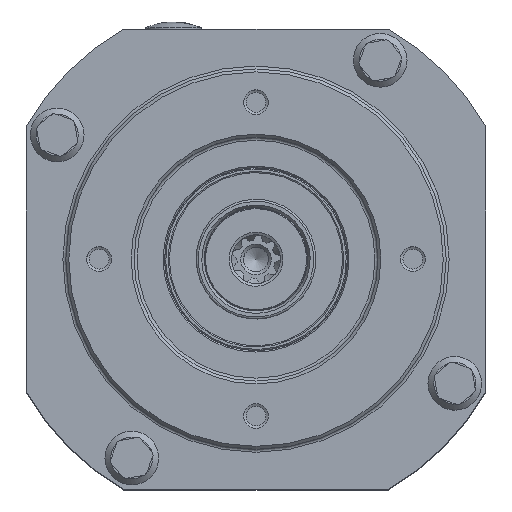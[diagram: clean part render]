
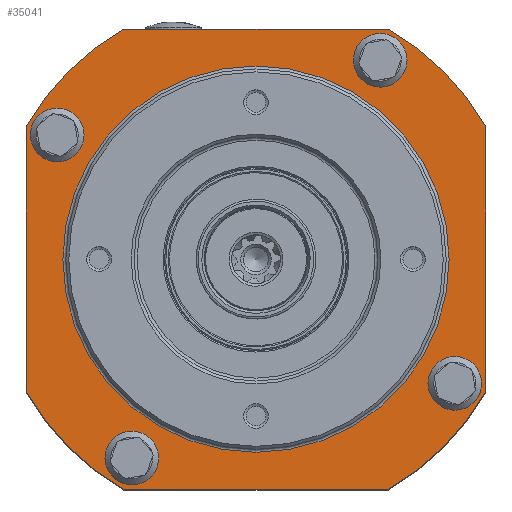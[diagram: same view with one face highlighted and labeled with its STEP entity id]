
A CAD part, top view. The second image highlights one B-rep face of the part: STEP entity #35041.
In plain terms, the highlighted planar face has unit normal (0, 0, 1).
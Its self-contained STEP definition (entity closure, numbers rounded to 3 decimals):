
#709=FACE_BOUND('',#5558,.T.);
#710=FACE_BOUND('',#5559,.T.);
#711=FACE_BOUND('',#5560,.T.);
#712=FACE_BOUND('',#5561,.T.);
#713=FACE_BOUND('',#5562,.T.);
#1488=PLANE('',#38217);
#3498=FACE_OUTER_BOUND('',#5557,.T.);
#5557=EDGE_LOOP('',(#28668,#28669,#28670,#28671,#28672,#28673,#28674,#28675));
#5558=EDGE_LOOP('',(#28676,#28677));
#5559=EDGE_LOOP('',(#28678,#28679));
#5560=EDGE_LOOP('',(#28680,#28681));
#5561=EDGE_LOOP('',(#28682,#28683));
#5562=EDGE_LOOP('',(#28684,#28685));
#6404=CIRCLE('',#35916,9.1);
#6405=CIRCLE('',#35917,9.1);
#6427=CIRCLE('',#35960,9.1);
#6428=CIRCLE('',#35961,9.1);
#7336=CIRCLE('',#38218,90.);
#7337=CIRCLE('',#38219,90.);
#7338=CIRCLE('',#38220,90.);
#7339=CIRCLE('',#38221,90.);
#7340=CIRCLE('',#38222,9.1);
#7341=CIRCLE('',#38223,9.1);
#7342=CIRCLE('',#38224,9.1);
#7343=CIRCLE('',#38225,9.1);
#7344=CIRCLE('',#38226,65.5);
#7345=CIRCLE('',#38227,65.5);
#10014=LINE('',#66281,#12628);
#10018=LINE('',#66298,#12632);
#10022=LINE('',#66315,#12636);
#10033=LINE('',#66404,#12647);
#12628=VECTOR('',#46530,10.);
#12632=VECTOR('',#46544,10.);
#12636=VECTOR('',#46558,10.);
#12647=VECTOR('',#46663,10.);
#13504=VERTEX_POINT('',#50571);
#13505=VERTEX_POINT('',#50572);
#13545=VERTEX_POINT('',#50718);
#13546=VERTEX_POINT('',#50719);
#15482=VERTEX_POINT('',#66274);
#15485=VERTEX_POINT('',#66279);
#15490=VERTEX_POINT('',#66291);
#15493=VERTEX_POINT('',#66296);
#15498=VERTEX_POINT('',#66308);
#15501=VERTEX_POINT('',#66313);
#15531=VERTEX_POINT('',#66398);
#15532=VERTEX_POINT('',#66402);
#15533=VERTEX_POINT('',#66405);
#15534=VERTEX_POINT('',#66406);
#15535=VERTEX_POINT('',#66409);
#15536=VERTEX_POINT('',#66410);
#15537=VERTEX_POINT('',#66413);
#15538=VERTEX_POINT('',#66414);
#16775=EDGE_CURVE('',#13504,#13505,#6404,.T.);
#16776=EDGE_CURVE('',#13505,#13504,#6405,.T.);
#16836=EDGE_CURVE('',#13545,#13546,#6427,.T.);
#16837=EDGE_CURVE('',#13546,#13545,#6428,.T.);
#20008=EDGE_CURVE('',#15482,#15485,#10014,.T.);
#20016=EDGE_CURVE('',#15490,#15493,#10018,.T.);
#20024=EDGE_CURVE('',#15498,#15501,#10022,.T.);
#20065=EDGE_CURVE('',#15531,#15490,#7336,.T.);
#20066=EDGE_CURVE('',#15493,#15498,#7337,.T.);
#20067=EDGE_CURVE('',#15501,#15482,#7338,.T.);
#20068=EDGE_CURVE('',#15485,#15532,#7339,.T.);
#20069=EDGE_CURVE('',#15532,#15531,#10033,.T.);
#20070=EDGE_CURVE('',#15533,#15534,#7340,.T.);
#20071=EDGE_CURVE('',#15534,#15533,#7341,.T.);
#20072=EDGE_CURVE('',#15535,#15536,#7342,.T.);
#20073=EDGE_CURVE('',#15536,#15535,#7343,.T.);
#20074=EDGE_CURVE('',#15537,#15538,#7344,.T.);
#20075=EDGE_CURVE('',#15538,#15537,#7345,.T.);
#28668=ORIENTED_EDGE('',*,*,#20065,.T.);
#28669=ORIENTED_EDGE('',*,*,#20016,.T.);
#28670=ORIENTED_EDGE('',*,*,#20066,.T.);
#28671=ORIENTED_EDGE('',*,*,#20024,.T.);
#28672=ORIENTED_EDGE('',*,*,#20067,.T.);
#28673=ORIENTED_EDGE('',*,*,#20008,.T.);
#28674=ORIENTED_EDGE('',*,*,#20068,.T.);
#28675=ORIENTED_EDGE('',*,*,#20069,.T.);
#28676=ORIENTED_EDGE('',*,*,#16775,.T.);
#28677=ORIENTED_EDGE('',*,*,#16776,.T.);
#28678=ORIENTED_EDGE('',*,*,#20070,.T.);
#28679=ORIENTED_EDGE('',*,*,#20071,.T.);
#28680=ORIENTED_EDGE('',*,*,#16836,.T.);
#28681=ORIENTED_EDGE('',*,*,#16837,.T.);
#28682=ORIENTED_EDGE('',*,*,#20072,.T.);
#28683=ORIENTED_EDGE('',*,*,#20073,.T.);
#28684=ORIENTED_EDGE('',*,*,#20074,.F.);
#28685=ORIENTED_EDGE('',*,*,#20075,.F.);
#35041=ADVANCED_FACE('',(#3498,#709,#710,#711,#712,#713),#1488,.T.);
#35916=AXIS2_PLACEMENT_3D('',#50573,#40148,#40149);
#35917=AXIS2_PLACEMENT_3D('',#50574,#40150,#40151);
#35960=AXIS2_PLACEMENT_3D('',#50720,#40262,#40263);
#35961=AXIS2_PLACEMENT_3D('',#50721,#40264,#40265);
#38217=AXIS2_PLACEMENT_3D('',#66397,#46653,#46654);
#38218=AXIS2_PLACEMENT_3D('',#66399,#46655,#46656);
#38219=AXIS2_PLACEMENT_3D('',#66400,#46657,#46658);
#38220=AXIS2_PLACEMENT_3D('',#66401,#46659,#46660);
#38221=AXIS2_PLACEMENT_3D('',#66403,#46661,#46662);
#38222=AXIS2_PLACEMENT_3D('',#66407,#46664,#46665);
#38223=AXIS2_PLACEMENT_3D('',#66408,#46666,#46667);
#38224=AXIS2_PLACEMENT_3D('',#66411,#46668,#46669);
#38225=AXIS2_PLACEMENT_3D('',#66412,#46670,#46671);
#38226=AXIS2_PLACEMENT_3D('',#66415,#46672,#46673);
#38227=AXIS2_PLACEMENT_3D('',#66416,#46674,#46675);
#40148=DIRECTION('center_axis',(0.,0.,
-1.));
#40149=DIRECTION('ref_axis',(0.339,0.941,0.));
#40150=DIRECTION('center_axis',(0.,0.,
-1.));
#40151=DIRECTION('ref_axis',(0.339,0.941,0.));
#40262=DIRECTION('center_axis',(0.,0.,
-1.));
#40263=DIRECTION('ref_axis',(-0.339,-0.941,0.));
#40264=DIRECTION('center_axis',(0.,0.,
-1.));
#40265=DIRECTION('ref_axis',(-0.339,-0.941,0.));
#46530=DIRECTION('',(-1.,0.,0.));
#46544=DIRECTION('',(1.,0.,0.));
#46558=DIRECTION('',(0.,1.,0.));
#46653=DIRECTION('center_axis',(0.,0.,
1.));
#46654=DIRECTION('ref_axis',(-1.,0.,0.));
#46655=DIRECTION('center_axis',(0.,0.,
1.));
#46656=DIRECTION('ref_axis',(1.,0.,0.));
#46657=DIRECTION('center_axis',(0.,0.,
1.));
#46658=DIRECTION('ref_axis',(1.,0.,0.));
#46659=DIRECTION('center_axis',(0.,0.,
1.));
#46660=DIRECTION('ref_axis',(1.,0.,0.));
#46661=DIRECTION('center_axis',(0.,0.,
1.));
#46662=DIRECTION('ref_axis',(1.,0.,0.));
#46663=DIRECTION('',(0.,-1.,0.));
#46664=DIRECTION('center_axis',(0.,0.,
-1.));
#46665=DIRECTION('ref_axis',(0.941,-0.339,0.));
#46666=DIRECTION('center_axis',(0.,0.,
-1.));
#46667=DIRECTION('ref_axis',(0.941,-0.339,0.));
#46668=DIRECTION('center_axis',(0.,0.,
-1.));
#46669=DIRECTION('ref_axis',(-0.941,0.339,0.));
#46670=DIRECTION('center_axis',(0.,0.,
-1.));
#46671=DIRECTION('ref_axis',(-0.941,0.339,0.));
#46672=DIRECTION('center_axis',(0.,0.,
1.));
#46673=DIRECTION('ref_axis',(0.,1.,0.));
#46674=DIRECTION('center_axis',(0.,0.,
1.));
#46675=DIRECTION('ref_axis',(0.,1.,0.));
#50571=CARTESIAN_POINT('',(-39.042,-58.859,-17.544));
#50572=CARTESIAN_POINT('',(-45.215,-75.98,-17.544));
#50573=CARTESIAN_POINT('Origin',(-42.129,-67.42,-17.544));
#50574=CARTESIAN_POINT('Origin',(-42.129,-67.42,-17.544));
#50718=CARTESIAN_POINT('',(39.042,58.859,-17.544));
#50719=CARTESIAN_POINT('',(45.215,75.98,-17.544));
#50720=CARTESIAN_POINT('Origin',(42.129,67.42,-17.544));
#50721=CARTESIAN_POINT('Origin',(42.129,67.42,-17.544));
#66274=CARTESIAN_POINT('',(44.9,78.,-17.544));
#66279=CARTESIAN_POINT('',(-44.9,78.,-17.544));
#66281=CARTESIAN_POINT('',(39.,78.,-17.544));
#66291=CARTESIAN_POINT('',(-44.9,-78.,-17.544));
#66296=CARTESIAN_POINT('',(44.9,-78.,-17.544));
#66298=CARTESIAN_POINT('',(-39.,-78.,-17.544));
#66308=CARTESIAN_POINT('',(78.,-44.9,-17.544));
#66313=CARTESIAN_POINT('',(78.,44.9,-17.544));
#66315=CARTESIAN_POINT('',(78.,-89.,-17.544));
#66397=CARTESIAN_POINT('Origin',(0.,-100.,-17.544));
#66398=CARTESIAN_POINT('',(-78.,-44.9,-17.544));
#66399=CARTESIAN_POINT('Origin',(0.,0.,
-17.544));
#66400=CARTESIAN_POINT('Origin',(0.,0.,
-17.544));
#66401=CARTESIAN_POINT('Origin',(0.,0.,
-17.544));
#66402=CARTESIAN_POINT('',(-78.,44.9,-17.544));
#66403=CARTESIAN_POINT('Origin',(0.,0.,
-17.544));
#66404=CARTESIAN_POINT('',(-78.,-11.,-17.544));
#66405=CARTESIAN_POINT('',(-58.859,39.042,-17.544));
#66406=CARTESIAN_POINT('',(-75.98,45.215,-17.544));
#66407=CARTESIAN_POINT('Origin',(-67.42,42.129,-17.544));
#66408=CARTESIAN_POINT('Origin',(-67.42,42.129,-17.544));
#66409=CARTESIAN_POINT('',(58.859,-39.042,-17.544));
#66410=CARTESIAN_POINT('',(75.98,-45.215,-17.544));
#66411=CARTESIAN_POINT('Origin',(67.42,-42.129,-17.544));
#66412=CARTESIAN_POINT('Origin',(67.42,-42.129,-17.544));
#66413=CARTESIAN_POINT('',(0.,-65.5,-17.544));
#66414=CARTESIAN_POINT('',(-65.5,0.,-17.544));
#66415=CARTESIAN_POINT('Origin',(0.,0.,
-17.544));
#66416=CARTESIAN_POINT('Origin',(0.,0.,
-17.544));
